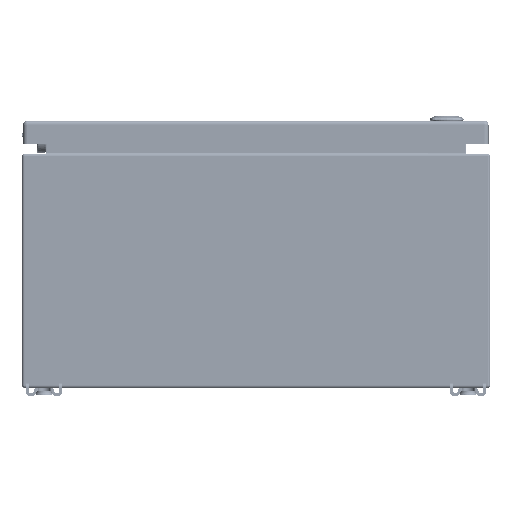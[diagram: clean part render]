
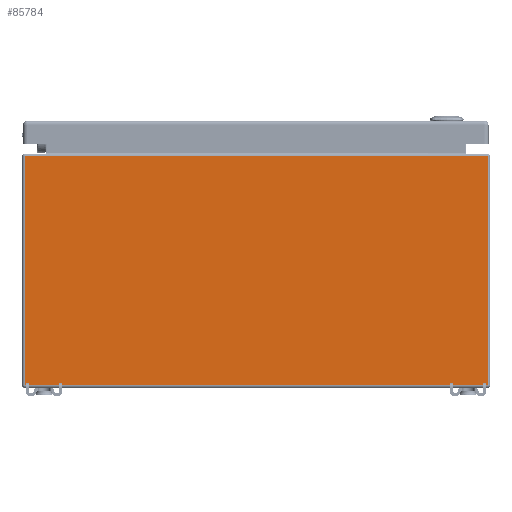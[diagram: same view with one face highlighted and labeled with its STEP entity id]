
A CAD part, front view. The second image highlights one B-rep face of the part: STEP entity #85784.
In plain terms, the highlighted planar face has unit normal (0, -1, 0).
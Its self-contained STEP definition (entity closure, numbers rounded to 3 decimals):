
#11836=FACE_OUTER_BOUND('',#17061,.T.);
#17061=EDGE_LOOP('',(#57140,#57141,#57142,#57143));
#22651=LINE('',#121305,#28690);
#22658=LINE('',#121320,#28697);
#22660=LINE('',#121327,#28699);
#22662=LINE('',#121336,#28701);
#28690=VECTOR('',#99905,0.394);
#28697=VECTOR('',#99918,0.394);
#28699=VECTOR('',#99926,0.394);
#28701=VECTOR('',#99938,0.394);
#34724=VERTEX_POINT('',#121275);
#34731=VERTEX_POINT('',#121301);
#34736=VERTEX_POINT('',#121319);
#34738=VERTEX_POINT('',#121325);
#43410=EDGE_CURVE('',#34724,#34731,#22651,.T.);
#43417=EDGE_CURVE('',#34731,#34736,#22658,.T.);
#43421=EDGE_CURVE('',#34738,#34724,#22660,.T.);
#43426=EDGE_CURVE('',#34738,#34736,#22662,.T.);
#57140=ORIENTED_EDGE('',*,*,#43410,.F.);
#57141=ORIENTED_EDGE('',*,*,#43421,.F.);
#57142=ORIENTED_EDGE('',*,*,#43426,.T.);
#57143=ORIENTED_EDGE('',*,*,#43417,.F.);
#83780=PLANE('',#92039);
#85784=ADVANCED_FACE('',(#11836),#83780,.F.);
#92039=AXIS2_PLACEMENT_3D('',#121347,#99952,#99953);
#99905=DIRECTION('',(1.,0.,0.));
#99918=DIRECTION('',(0.,0.,-1.));
#99926=DIRECTION('',(0.,0.,1.));
#99938=DIRECTION('',(1.,0.,0.));
#99952=DIRECTION('center_axis',(0.,1.,0.));
#99953=DIRECTION('ref_axis',(0.,0.,1.));
#121275=CARTESIAN_POINT('',(-7.916,-10.,7.916));
#121301=CARTESIAN_POINT('',(7.916,-10.,7.916));
#121305=CARTESIAN_POINT('',(3.979,-10.,7.916));
#121319=CARTESIAN_POINT('',(7.916,-10.,0.084));
#121320=CARTESIAN_POINT('',(7.916,-10.,4.));
#121325=CARTESIAN_POINT('',(-7.916,-10.,0.084));
#121327=CARTESIAN_POINT('',(-7.916,-10.,4.));
#121336=CARTESIAN_POINT('',(-3.958,-10.,0.084));
#121347=CARTESIAN_POINT('Origin',(0.,-10.,4.));
